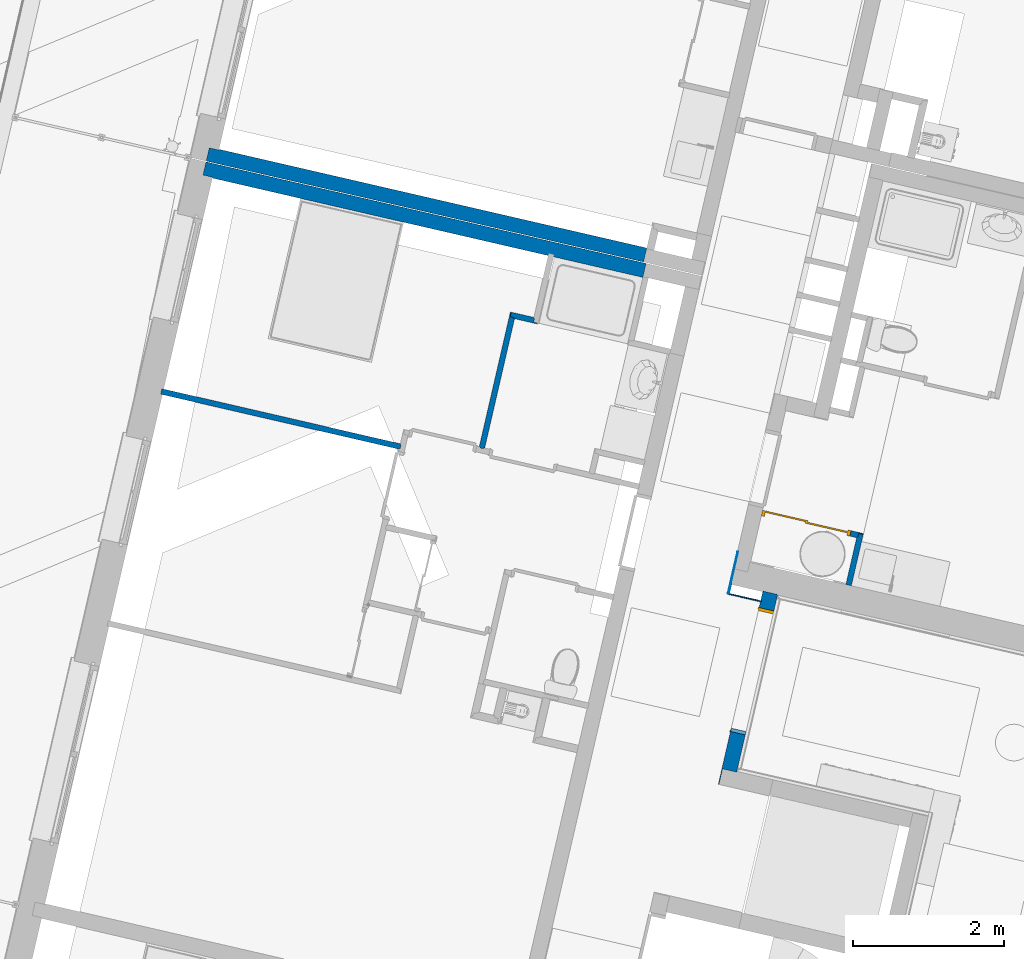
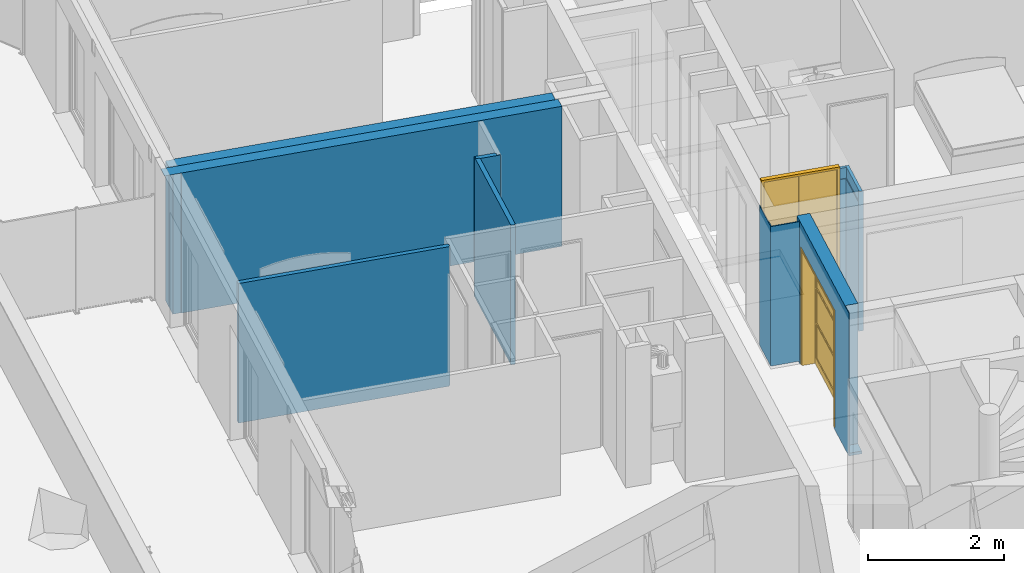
# One storey, part 48 of 119: 10 walls, 2 doors, 2 openings.
"""IFC2X3 building model written with IfcOpenShell, lengths in metres."""

from ifc_helpers import new_model, entity, si_unit, converted_unit, derived_unit, money_unit, direction, frame, origin_with_axes, place, context, subcontext, project, spatial, faceted_brep, material, material_list, type_object, element, fill, save


model = new_model("IFC2X3")

# Units and contexts
model_context = context("Model", 3, precision=1e-05, world=origin_with_axes(), true_north=direction((0.0, 1.0)))
body_context = subcontext(model_context, "Body", "Model", "MODEL_VIEW")
ifc_project = project(units=[si_unit("LENGTHUNIT", "METRE"), si_unit("AREAUNIT", "SQUARE_METRE"), si_unit("VOLUMEUNIT", "CUBIC_METRE"), converted_unit("PLANEANGLEUNIT", "DEGREE", entity("IfcPlaneAngleMeasure", 0.0174532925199), si_unit("PLANEANGLEUNIT", "RADIAN"), dimensions=[0, 0, 0, 0, 0, 0, 0]), si_unit("SOLIDANGLEUNIT", "STERADIAN"), money_unit("EUR"), converted_unit("TIMEUNIT", "Year", entity("IfcTimeMeasure", 31556926.0), si_unit("TIMEUNIT", "SECOND"), dimensions=[0, 0, 1, 0, 0, 0, 0]), si_unit("MASSUNIT", "GRAM", prefix="KILO"), si_unit("THERMODYNAMICTEMPERATUREUNIT", "DEGREE_CELSIUS"), si_unit("LUMINOUSINTENSITYUNIT", "LUMEN"), si_unit("ENERGYUNIT", "JOULE", prefix="MEGA"), derived_unit("THERMALCONDUCTANCEUNIT", [(si_unit("POWERUNIT", "WATT"), 1), (si_unit("LENGTHUNIT", "METRE"), -1), (si_unit("THERMODYNAMICTEMPERATUREUNIT", "KELVIN"), -1)]), derived_unit("SPECIFICHEATCAPACITYUNIT", [(si_unit("ENERGYUNIT", "JOULE"), 1), (si_unit("MASSUNIT", "GRAM", prefix="KILO"), -1), (si_unit("THERMODYNAMICTEMPERATUREUNIT", "KELVIN"), -1)]), derived_unit("MASSDENSITYUNIT", [(si_unit("MASSUNIT", "GRAM", prefix="KILO"), 1), (si_unit("VOLUMEUNIT", "CUBIC_METRE"), -1)])], contexts=[model_context])

# Site, building, storey
site_placement = place(None, origin_with_axes())
site = spatial("IfcSite", under=ifc_project, at=site_placement, Name="Site", CompositionType="ELEMENT")
building_placement = place(site_placement, origin_with_axes())
building = spatial("IfcBuilding", under=site, at=building_placement, Name="Bâtiment", CompositionType="ELEMENT")
storey_placement = place(building_placement, origin_with_axes())
storey = spatial("IfcBuildingStorey", under=building, at=storey_placement, Name="Rez-de-chaussée", CompositionType="ELEMENT", Elevation=0.0)

# Walls
ifc_material_1 = material(Name="Finition int - Plaque de plâtre")
ifc_material_2 = material(Name="Isolation - Laine de roche")
ifc_material_list_1 = material_list([ifc_material_1, ifc_material_2, ifc_material_1])
wall_type_1 = type_object("IfcWallType", Name="3 - Cloison 72mm Placostil 74", PredefinedType="USERDEFINED")
wall_1_placement = place(storey_placement, frame((-13.0436333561, 0.0874017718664, 0.0), z_axis=(0.0, 0.0, 1.0), x_axis=(0.224876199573, 0.974387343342, 0.0)))
element("IfcWall", 1, at=wall_1_placement, inside=storey, type_object=wall_type_1, material=ifc_material_list_1, Name="Cloison Placostil 72/48", ObjectType="PARTITIONING", context=body_context, shape_type="Brep", body=[
    faceted_brep([(1.88946721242, 0.074, 0.0), (1.88946721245, 0.061, 0.0), (0.0740000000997, 0.061, 0.0), (0.0740000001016, 0.074, 0.0), (1.88946721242, 0.074, 2.5), (1.88946721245, 0.061, 2.5), (0.0740000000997, 0.061, 2.5), (0.0740000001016, 0.074, 2.5)], [[[0, 1, 2, 3]], [[1, 0, 4, 5]], [[1, 5, 6, 2]], [[7, 3, 2, 6]], [[4, 0, 3, 7]], [[5, 4, 7, 6]]]),
    faceted_brep([(1.84146721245, 0.061, 0.0), (1.84146721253, 0.013, 0.0), (0.0610000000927, 0.013, 0.0), (0.0610000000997, 0.061, 0.0), (1.84146721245, 0.061, 2.5), (1.84146721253, 0.013, 2.5), (0.0610000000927, 0.013, 2.5), (0.0610000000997, 0.061, 2.5)], [[[0, 1, 2, 3]], [[1, 0, 4, 5]], [[1, 5, 6, 2]], [[7, 3, 2, 6]], [[4, 0, 3, 7]], [[5, 4, 7, 6]]]),
    faceted_brep([(1.82846721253, 0.013, 0.0), (1.82846721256, 0.0, 0.0), (0.0740000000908, 0.0, 0.0), (0.0740000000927, 0.013, 0.0), (1.82846721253, 0.013, 2.5), (1.82846721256, 0.0, 2.5), (0.0740000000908, 0.0, 2.5), (0.0740000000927, 0.013, 2.5)], [[[0, 1, 2, 3]], [[1, 0, 4, 5]], [[1, 5, 6, 2]], [[7, 3, 2, 6]], [[4, 0, 3, 7]], [[5, 4, 7, 6]]]),
])
wall_2_placement = place(storey_placement, frame((-12.3216051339, 1.79729698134, 0.0), z_axis=(0.0, 0.0, 1.0), x_axis=(-0.974387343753, 0.224876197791, 0.0)))
element("IfcWall", 2, at=wall_2_placement, inside=storey, type_object=wall_type_1, material=ifc_material_list_1, Name="Cloison Placostil 72/48", ObjectType="PARTITIONING", context=body_context, shape_type="Brep", body=[
    faceted_brep([(0.332020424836, -0.013, 2.5), (0.332020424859, 0.0, 2.5), (0.013, 0.0, 2.5), (0.012999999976, -0.013, 2.5), (0.332020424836, -0.013, 0.0), (0.332020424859, 0.0, 0.0), (0.013, 0.0, 0.0), (0.012999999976, -0.013, 0.0)], [[[0, 1, 2, 3]], [[1, 0, 4, 5]], [[1, 5, 6, 2]], [[7, 3, 2, 6]], [[4, 0, 3, 7]], [[5, 4, 7, 6]]]),
    faceted_brep([(0.380020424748, -0.061, 2.5), (0.380020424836, -0.013, 2.5), (0.060999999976, -0.013, 2.5), (0.0609999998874, -0.061, 2.5), (0.380020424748, -0.061, 0.0), (0.380020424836, -0.013, 0.0), (0.060999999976, -0.013, 0.0), (0.0609999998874, -0.061, 0.0)], [[[0, 1, 2, 3]], [[1, 0, 4, 5]], [[1, 5, 6, 2]], [[7, 3, 2, 6]], [[4, 0, 3, 7]], [[5, 4, 7, 6]]]),
    faceted_brep([(0.393020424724, -0.074, 2.5), (0.393020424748, -0.061, 2.5), (0.0739999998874, -0.061, 2.5), (0.0739999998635, -0.074, 2.5), (0.393020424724, -0.074, 0.0), (0.393020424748, -0.061, 0.0), (0.0739999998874, -0.061, 0.0), (0.0739999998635, -0.074, 0.0)], [[[0, 1, 2, 3]], [[1, 0, 4, 5]], [[1, 5, 6, 2]], [[7, 3, 2, 6]], [[4, 0, 3, 7]], [[5, 4, 7, 6]]]),
])

# Wall, opening, door
wall_3_placement = place(storey_placement, frame((-9.35525864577, -0.66192296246, 0.0), z_axis=(0.0, 0.0, 1.0), x_axis=(0.974387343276, -0.224876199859, 0.0)))
wall_3 = element("IfcWall", 3, at=wall_3_placement, inside=storey, type_object=wall_type_1, material=ifc_material_list_1, Name="Cloison Placostil 72/48", ObjectType="PARTITIONING", context=body_context, shape_type="Brep", body=[
    faceted_brep([(1.20000000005, 0.0, 0.0), (1.20000000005, 0.0, 2.31), (1.35439273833, 0.0, 2.31), (1.35439273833, 0.0, 0.0), (1.20000000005, -0.013, 2.31), (1.20000000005, -0.013, 0.0), (1.35439273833, -0.013, 2.31), (1.35439273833, -0.013, 0.0)], [[[0, 1, 2, 3]], [[4, 1, 0, 5]], [[1, 4, 6, 2]], [[6, 7, 3, 2]], [[5, 0, 3, 7]], [[4, 5, 7, 6]]]),
    faceted_brep([(1.20000000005, -0.013, 0.0), (1.20000000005, -0.013, 2.5), (1.30639273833, -0.013, 2.5), (1.30639273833, -0.013, 0.0), (1.20000000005, -0.061, 2.5), (1.20000000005, -0.061, 0.0), (1.30639273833, -0.061, 2.5), (1.30639273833, -0.061, 0.0)], [[[0, 1, 2, 3]], [[4, 1, 0, 5]], [[1, 4, 6, 2]], [[6, 7, 3, 2]], [[5, 0, 3, 7]], [[4, 5, 7, 6]]]),
    faceted_brep([(1.20000000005, -0.061, 0.0), (1.20000000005, -0.061, 2.31), (1.29339273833, -0.061, 2.31), (1.29339273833, -0.061, 0.0), (1.20000000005, -0.074, 2.31), (1.20000000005, -0.074, 0.0), (1.29339273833, -0.074, 2.31), (1.29339273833, -0.074, 0.0)], [[[0, 1, 2, 3]], [[4, 1, 0, 5]], [[1, 4, 6, 2]], [[6, 7, 3, 2]], [[5, 0, 3, 7]], [[4, 5, 7, 6]]]),
])
opening_1_placement = place(wall_3_placement, frame((0.600000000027, 0.0, 0.0), z_axis=(0.0, 0.0, 1.0), x_axis=(1.0, 0.0, 0.0)))
opening_1 = element("IfcOpeningElement", 4, at=opening_1_placement, cuts=wall_3, Name="Por-002", context=body_context, shape_type="Brep", body=[
    faceted_brep([(-0.600000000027, 0.074, 0.0), (0.600000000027, 0.074, 0.0), (0.600000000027, -0.074, 0.0), (-0.600000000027, -0.074, 0.0), (-0.600000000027, 0.074, 2.54), (0.600000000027, 0.074, 2.54), (0.600000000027, -0.074, 2.54), (-0.600000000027, -0.074, 2.54)], [[[0, 1, 2, 3]], [[0, 4, 5, 1]], [[1, 5, 6, 2]], [[3, 2, 6, 7]], [[4, 0, 3, 7]], [[5, 4, 7, 6]]]),
])
door_style_1 = type_object("IfcDoorStyle", Name="Porte int générique 2019", ConstructionType="NOTDEFINED", OperationType="USERDEFINED", ParameterTakesPrecedence=False, Sizeable=False)
door_1_placement = place(opening_1_placement, frame((-0.560000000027, 0.0, 0.0), z_axis=(0.0, 0.0, 1.0), x_axis=(1.0, 0.0, 0.0)))
door_1 = element("IfcDoor", 5, at=door_1_placement, inside=storey, type_object=door_style_1, Name="Por-002", ObjectType="DOOR", OverallHeight=2.5, OverallWidth=1.12, context=body_context, shape_type="Brep", body=[
    faceted_brep([(-0.04, 0.0, 0.0), (-0.04, 0.0, 2.54), (1.16000000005, 0.0, 2.54), (1.16000000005, 0.0, 0.0), (1.12000000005, 0.0, 0.0), (1.12000000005, 0.0, 2.5), (0.0, 0.0, 2.5), (0.0, 0.0, 0.0), (-0.04, -0.074, 0.0), (-0.04, -0.074, 2.54), (1.16000000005, -0.074, 2.54), (1.16000000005, -0.074, 0.0), (1.12000000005, -0.074, 0.0), (1.12000000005, -0.074, 2.5), (0.0, -0.074, 2.5), (0.0, -0.074, 0.0)], [[[0, 1, 2, 3, 4, 5, 6, 7]], [[8, 9, 1, 0]], [[9, 10, 2, 1]], [[10, 11, 3, 2]], [[3, 11, 12, 4]], [[5, 4, 12, 13]], [[6, 5, 13, 14]], [[7, 6, 14, 15]], [[0, 7, 15, 8]], [[15, 14, 13, 12, 11, 10, 9, 8]]]),
    faceted_brep([(0.0, 0.0, 0.0), (0.575000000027, 0.0, 0.0), (0.575000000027, -0.02, 0.0), (0.0, -0.02, 0.0), (0.0, 0.0, 2.5), (0.575000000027, 0.0, 2.5), (0.575000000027, -0.02, 2.5), (0.0, -0.02, 2.5)], [[[0, 1, 2, 3]], [[0, 4, 5, 1]], [[1, 5, 6, 2]], [[3, 2, 6, 7]], [[4, 0, 3, 7]], [[5, 4, 7, 6]]]),
    faceted_brep([(0.545000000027, -0.02, 0.0), (1.12000000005, -0.02, 0.0), (1.12000000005, -0.04, 0.0), (0.545000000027, -0.04, 0.0), (0.545000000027, -0.02, 2.5), (1.12000000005, -0.02, 2.5), (1.12000000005, -0.04, 2.5), (0.545000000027, -0.04, 2.5)], [[[0, 1, 2, 3]], [[0, 4, 5, 1]], [[1, 5, 6, 2]], [[3, 2, 6, 7]], [[4, 0, 3, 7]], [[5, 4, 7, 6]]]),
])
fill(opening_1, door_1)

# Walls
wall_4_placement = place(storey_placement, frame((-14.085182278, 0.127992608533, 0.0), z_axis=(0.0, 0.0, 1.0), x_axis=(-0.974387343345, 0.224876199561, 0.0)))
element("IfcWall", 6, at=wall_4_placement, inside=storey, type_object=wall_type_1, material=ifc_material_list_1, Name="Cloison Placostil 72/48", ObjectType="PARTITIONING", context=body_context, shape_type="Brep", body=[
    faceted_brep([(0.0740000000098, -0.013, 2.5), (3.30928995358, -0.013, 2.5), (3.30928995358, 0.0, 2.5), (0.0740000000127, 0.0, 2.5), (0.0740000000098, -0.013, 0.0), (3.30928995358, -0.013, 0.0), (3.30928995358, 0.0, 0.0), (0.0740000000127, 0.0, 0.0)], [[[0, 1, 2, 3]], [[4, 5, 1, 0]], [[2, 1, 5, 6]], [[3, 2, 6, 7]], [[4, 0, 3, 7]], [[7, 6, 5, 4]]]),
    faceted_brep([(0.0609999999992, -0.061, 2.5), (3.30928995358, -0.061, 2.5), (3.30928995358, -0.013, 2.5), (0.0610000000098, -0.013, 2.5), (0.0609999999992, -0.061, 0.0), (3.30928995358, -0.061, 0.0), (3.30928995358, -0.013, 0.0), (0.0610000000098, -0.013, 0.0)], [[[0, 1, 2, 3]], [[4, 5, 1, 0]], [[2, 1, 5, 6]], [[3, 2, 6, 7]], [[4, 0, 3, 7]], [[7, 6, 5, 4]]]),
    faceted_brep([(0.0739999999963, -0.074, 2.5), (3.30928995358, -0.074, 2.5), (3.30928995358, -0.061, 2.5), (0.0739999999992, -0.061, 2.5), (0.0739999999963, -0.074, 0.0), (3.30928995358, -0.074, 0.0), (3.30928995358, -0.061, 0.0), (0.0739999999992, -0.061, 0.0)], [[[0, 1, 2, 3]], [[4, 5, 1, 0]], [[2, 1, 5, 6]], [[3, 2, 6, 7]], [[4, 0, 3, 7]], [[7, 6, 5, 4]]]),
])
wall_5_placement = place(storey_placement, frame((-8.25443035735, -1.64361683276, 0.0), z_axis=(0.0, 0.0, 1.0), x_axis=(0.224876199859, 0.974387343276, 0.0)))
element("IfcWall", 7, at=wall_5_placement, inside=storey, type_object=wall_type_1, material=ifc_material_list_1, Name="Cloison Placostil 72/48", ObjectType="PARTITIONING", context=body_context, shape_type="Brep", body=[
    faceted_brep([(0.647999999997, 0.0, 2.31), (0.647999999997, -0.013, 2.31), (0.647999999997, -0.013, 0.0), (0.647999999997, 0.0, 0.0), (0.0150000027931, -0.013, 2.31), (0.0150000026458, 0.0, 2.31), (0.0150000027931, -0.013, 2.5), (0.0, -0.013, 2.5), (0.0, -0.013, 0.0), (0.0, 0.0, 0.0), (0.0, 0.0, 2.5), (0.0150000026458, 0.0, 2.5)], [[[0, 1, 2, 3]], [[4, 1, 0, 5]], [[4, 6, 7, 8, 2, 1]], [[3, 2, 8, 9]], [[5, 0, 3, 9, 10, 11]], [[11, 6, 4, 5]], [[6, 11, 10, 7]], [[8, 7, 10, 9]]]),
    faceted_brep([(0.695999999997, -0.061, 2.5), (0.695999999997, -0.013, 2.5), (0.0, -0.013, 2.5), (0.0, -0.061, 2.5), (0.695999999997, -0.061, 0.0), (0.695999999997, -0.013, 0.0), (0.0, -0.013, 0.0), (0.0, -0.061, 0.0)], [[[0, 1, 2, 3]], [[1, 0, 4, 5]], [[1, 5, 6, 2]], [[7, 3, 2, 6]], [[4, 0, 3, 7]], [[5, 4, 7, 6]]]),
    faceted_brep([(0.708999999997, -0.061, 2.31), (0.708999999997, -0.074, 2.31), (0.708999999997, -0.074, 0.0), (0.708999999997, -0.061, 0.0), (0.015000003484, -0.074, 2.31), (0.0150000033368, -0.061, 2.31), (0.015000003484, -0.074, 2.5), (0.0, -0.074, 2.5), (0.0, -0.074, 0.0), (0.0, -0.061, 0.0), (0.0, -0.061, 2.5), (0.0150000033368, -0.061, 2.5)], [[[0, 1, 2, 3]], [[4, 1, 0, 5]], [[4, 6, 7, 8, 2, 1]], [[3, 2, 8, 9]], [[5, 0, 3, 9, 10, 11]], [[11, 6, 4, 5]], [[6, 11, 10, 7]], [[8, 7, 10, 9]]]),
])

# Wall, opening, door
ifc_material_3 = material(Name="Finition int - Enduit plâtre")
ifc_material_4 = material(Name="Béton")
ifc_material_list_2 = material_list([ifc_material_3, ifc_material_4, ifc_material_3])
wall_type_2 = type_object("IfcWallType", Name="2 - Murs Béton 18 + Enduit 2 Faces 200", PredefinedType="USERDEFINED")
wall_6_placement = place(storey_placement, frame((-9.35056063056, -1.72931826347, -0.05), z_axis=(0.0, 0.0, 1.0), x_axis=(-0.224876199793, -0.974387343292, 0.0)))
wall_6 = element("IfcWall", 8, at=wall_6_placement, inside=storey, type_object=wall_type_2, material=ifc_material_list_2, Name="M_Ext-008", ObjectType="SOLIDWALL", context=body_context, shape_type="Brep", body=[
    faceted_brep([(1.90489627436, 0.199999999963, 0.05), (1.90489627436, 0.199999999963, 2.13), (0.224896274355, 0.199999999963, 2.13), (0.224896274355, 0.199999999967, 0.07), (0.145589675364, 0.199999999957, 0.07), (0.145589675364, 0.199999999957, 0.0), (0.125078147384, 0.199999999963, 0.0), (0.125078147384, 0.200000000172, 0.05), (0.0100000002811, 0.2, 0.05), (0.0100000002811, 0.2, 2.55999999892), (2.41000000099, 0.2, 2.56), (2.41000000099, 0.2, 0.05), (2.61000000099, 0.2, 0.05), (2.61000000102, 0.2, 0.0), (1.86000000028, 0.200000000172, 0.0), (1.86000000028, 0.200000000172, 0.05), (1.90489627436, 0.19, 0.05), (1.90489627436, 0.19, 2.13), (0.224896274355, 0.19, 2.13), (0.224896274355, 0.19, 0.07), (0.145589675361, 0.19, 0.07), (0.145589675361, 0.19, 0.0), (0.125078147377, 0.19, 0.0), (0.125078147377, 0.19, 0.05), (0.0100000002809, 0.19, 0.05), (0.0100000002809, 0.19, 2.55999999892), (2.41000000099, 0.19, 2.56), (2.41000000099, 0.19, 0.05), (2.61000000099, 0.19, 0.05), (2.61000000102, 0.19, 0.0), (1.86000000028, 0.19, 0.0), (1.86000000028, 0.19, 0.05)], [[[0, 1, 2, 3, 4, 5, 6, 7, 8, 9, 10, 11, 12, 13, 14, 15]], [[1, 0, 16, 17]], [[2, 1, 17, 18]], [[3, 2, 18, 19]], [[3, 19, 20, 4]], [[4, 20, 21, 5]], [[6, 5, 21, 22]], [[6, 22, 23, 7]], [[8, 7, 23, 24]], [[24, 25, 9, 8]], [[25, 26, 10, 9]], [[27, 11, 10, 26]], [[28, 12, 11, 27]], [[13, 12, 28, 29]], [[30, 14, 13, 29]], [[31, 15, 14, 30]], [[0, 15, 31, 16]], [[16, 31, 30, 29, 28, 27, 26, 25, 24, 23, 22, 21, 20, 19, 18, 17]]]),
    faceted_brep([(1.90489627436, 0.19, 0.05), (1.90489627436, 0.19, 2.13), (0.224896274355, 0.19, 2.13), (0.224896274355, 0.19, 0.055), (0.145589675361, 0.19, 0.055), (0.145589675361, 0.19, 0.0), (0.125078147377, 0.19, 0.0), (0.125078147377, 0.19, 0.05), (2.80906409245e-10, 0.19, 0.05), (2.80906409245e-10, 0.19, 2.55999999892), (2.41000000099, 0.19, 2.56), (2.41000000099, 0.19, 0.05), (2.61000000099, 0.19, 0.05), (2.61000000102, 0.19, 0.0), (1.86000000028, 0.19, 0.0), (1.86000000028, 0.19, 0.05), (1.90489627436, 0.01, 0.05), (1.90489627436, 0.01, 2.13), (0.224896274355, 0.01, 2.13), (0.224896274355, 0.01, 0.055), (0.145589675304, 0.01, 0.055), (0.145589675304, 0.01, 0.0), (0.0, 0.01, 0.0), (0.0, 0.0760019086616, 0.0), (0.125078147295, 0.0760019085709, 0.0), (0.125078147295, 0.0760019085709, 0.05), (2.79137157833e-10, 0.0760019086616, 0.05), (2.78113976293e-10, 0.01, 0.05), (2.78113976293e-10, 0.01, 2.55999999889), (2.41000000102, 0.01, 2.56), (2.41000000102, 0.01, 0.05), (2.61000000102, 0.01, 0.05), (2.61000000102, 0.01, 0.0), (1.86000000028, 0.01, 0.0), (1.86000000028, 0.01, 0.05)], [[[0, 1, 2, 3, 4, 5, 6, 7, 8, 9, 10, 11, 12, 13, 14, 15]], [[1, 0, 16, 17]], [[2, 1, 17, 18]], [[3, 2, 18, 19]], [[3, 19, 20, 4]], [[4, 20, 21, 5]], [[21, 22, 23, 24, 6, 5]], [[6, 24, 25, 7]], [[8, 7, 25, 26]], [[27, 28, 9, 8, 26]], [[28, 29, 10, 9]], [[30, 11, 10, 29]], [[31, 12, 11, 30]], [[13, 12, 31, 32]], [[33, 14, 13, 32]], [[34, 15, 14, 33]], [[0, 15, 34, 16]], [[16, 34, 33, 32, 31, 30, 29, 28, 27, 22, 21, 20, 19, 18, 17]], [[23, 22, 27, 26]], [[26, 25, 24, 23]]]),
    faceted_brep([(1.90489627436, 0.01, 0.05), (1.90489627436, 0.01, 2.13), (0.224896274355, 0.01, 2.13), (0.224896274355, 0.01, 0.07), (0.145589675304, 0.01, 0.07), (0.145589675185, 0.01, 2.55), (0.130589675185, 0.01, 2.55), (0.130589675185, 0.01, 0.05), (0.145589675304, 0.01, 0.05), (0.145589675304, 0.01, 0.0), (0.0, 0.01, 0.0), (2.78113976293e-10, 0.01, 0.05), (0.0100000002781, 0.01, 0.05), (0.0100000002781, 0.01, 2.55999999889), (2.61999999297, 0.01, 2.56), (2.61999999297, 0.01, 2.45), (2.61000000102, 0.01, 2.45), (2.61000000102, 0.01, 2.337), (2.61999999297, 0.01, 2.337), (2.61999999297, 0.01, 0.07), (2.61000000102, 0.01, 0.07), (2.61000000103, 0.01, 0.05), (2.61000000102, 0.01, 0.0), (1.86000000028, 0.01, 0.0), (1.86000000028, 0.01, 0.05), (1.90489627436, 0.0, 0.05), (1.90489627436, 0.0, 2.13), (0.224896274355, 0.0, 2.13), (0.224896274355, 0.0, 0.07), (0.1455896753, 0.0, 0.07), (0.145589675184, 0.0, 2.55), (0.130589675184, 0.0, 2.55), (0.130589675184, 0.0, 0.05), (0.1455896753, 0.0, 0.05), (0.1455896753, 0.0, 0.0), (0.0, 0.0, 0.0), (2.7795854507e-10, 0.0, 0.05), (0.010000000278, 0.0, 0.05), (0.010000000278, 0.0, 2.55999999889), (2.61999999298, 0.0, 2.56), (2.61999999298, 0.0, 2.45), (2.61000000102, 0.0, 2.45), (2.61000000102, 0.0, 2.337), (2.61999999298, 0.0, 2.337), (2.61999999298, 0.0, 0.07), (2.61000000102, 0.0, 0.07), (2.61000000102, 0.0, 0.05), (2.61000000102, 0.0, 0.0), (1.86000000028, 0.0, 0.0), (1.86000000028, 0.0, 0.05)], [[[0, 1, 2, 3, 4, 5, 6, 7, 8, 9, 10, 11, 12, 13, 14, 15, 16, 17, 18, 19, 20, 21, 22, 23, 24]], [[1, 0, 25, 26]], [[2, 1, 26, 27]], [[3, 2, 27, 28]], [[3, 28, 29, 4]], [[29, 30, 5, 4]], [[6, 5, 30, 31]], [[7, 6, 31, 32]], [[8, 7, 32, 33]], [[33, 34, 9, 8]], [[34, 35, 10, 9]], [[36, 11, 10, 35]], [[12, 11, 36, 37]], [[38, 13, 12, 37]], [[13, 38, 39, 14]], [[15, 14, 39, 40]], [[15, 40, 41, 16]], [[41, 42, 17, 16]], [[17, 42, 43, 18]], [[19, 18, 43, 44]], [[19, 44, 45, 20]], [[45, 46, 21, 20]], [[46, 47, 22, 21]], [[23, 22, 47, 48]], [[49, 24, 23, 48]], [[0, 24, 49, 25]], [[25, 49, 48, 47, 46, 45, 44, 43, 42, 41, 40, 39, 38, 37, 36, 35, 34, 33, 32, 31, 30, 29, 28, 27, 26]]]),
])
opening_2_placement = place(wall_6_placement, frame((1.06489627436, 0.0, 0.05), z_axis=(0.0, 0.0, 1.0), x_axis=(1.0, 0.0, 0.0)))
opening_2 = element("IfcOpeningElement", 9, at=opening_2_placement, cuts=wall_6, Name="Porte métal 2V 160x204", context=body_context, shape_type="Brep", body=[
    faceted_brep([(-0.84, 0.2, 0.0), (0.84, 0.2, 0.0), (0.84, -0.2, 0.0), (-0.84, -0.2, 0.0), (-0.84, 0.2, 2.08), (0.84, 0.2, 2.08), (0.84, -0.2, 2.08), (-0.84, -0.2, 2.08)], [[[0, 1, 2, 3]], [[0, 4, 5, 1]], [[1, 5, 6, 2]], [[3, 2, 6, 7]], [[4, 0, 3, 7]], [[5, 4, 7, 6]]]),
])
door_style_2 = type_object("IfcDoorStyle", Name="Porte int générique 2019", ConstructionType="NOTDEFINED", OperationType="DOUBLE_DOOR_SINGLE_SWING", ParameterTakesPrecedence=False, Sizeable=False)
door_2_placement = place(opening_2_placement, frame((-0.8, 0.0, 0.0), z_axis=(0.0, 0.0, 1.0), x_axis=(1.0, 0.0, 0.0)))
door_2 = element("IfcDoor", 10, at=door_2_placement, inside=storey, type_object=door_style_2, Name="Porte métal 2V 160x204", ObjectType="DOOR", OverallHeight=2.04, OverallWidth=1.6, context=body_context, shape_type="Brep", body=[
    faceted_brep([(-0.04, 0.2, 0.0), (-0.04, 0.2, 2.08), (1.64, 0.2, 2.08), (1.64, 0.2, 0.0), (1.6, 0.2, 0.0), (1.6, 0.2, 2.04), (0.0, 0.2, 2.04), (0.0, 0.2, 0.0), (-0.04, 0.0, 0.0), (-0.04, 0.0, 2.08), (1.64, 0.0, 2.08), (1.64, 0.0, 0.0), (1.6, 0.0, 0.0), (1.6, 0.0, 2.04), (0.0, 0.0, 2.04), (0.0, 0.0, 0.0)], [[[0, 1, 2, 3, 4, 5, 6, 7]], [[8, 9, 1, 0]], [[9, 10, 2, 1]], [[10, 11, 3, 2]], [[3, 11, 12, 4]], [[5, 4, 12, 13]], [[6, 5, 13, 14]], [[7, 6, 14, 15]], [[0, 7, 15, 8]], [[15, 14, 13, 12, 11, 10, 9, 8]]]),
    faceted_brep([(-0.05, 0.2, 0.0), (-0.05, 0.2, 2.09), (-0.05, 0.21, 2.09), (-0.05, 0.21, 0.0), (-0.02, 0.2, 0.0), (-0.02, 0.2, 2.06), (1.62, 0.2, 2.06), (1.62, 0.2, 0.0), (1.65, 0.2, 0.0), (1.65, 0.2, 2.09), (1.65, 0.21, 2.09), (1.65, 0.21, 0.0), (1.62, 0.21, 0.0), (1.62, 0.21, 2.06), (-0.02, 0.21, 2.06), (-0.02, 0.21, 0.0)], [[[0, 1, 2, 3]], [[4, 5, 6, 7, 8, 9, 1, 0]], [[1, 9, 10, 2]], [[3, 2, 10, 11, 12, 13, 14, 15]], [[0, 3, 15, 4]], [[15, 14, 5, 4]], [[14, 13, 6, 5]], [[13, 12, 7, 6]], [[8, 7, 12, 11]], [[9, 8, 11, 10]]]),
    faceted_brep([(-0.05, -0.01, 0.0), (-0.05, -0.01, 2.09), (-0.05, 0.0, 2.09), (-0.05, 0.0, 0.0), (-0.02, -0.01, 0.0), (-0.02, -0.01, 2.06), (1.62, -0.01, 2.06), (1.62, -0.01, 0.0), (1.65, -0.01, 0.0), (1.65, -0.01, 2.09), (1.65, 0.0, 2.09), (1.65, 0.0, 0.0), (1.62, 0.0, 0.0), (1.62, 0.0, 2.06), (-0.02, 0.0, 2.06), (-0.02, 0.0, 0.0)], [[[0, 1, 2, 3]], [[4, 5, 6, 7, 8, 9, 1, 0]], [[1, 9, 10, 2]], [[3, 2, 10, 11, 12, 13, 14, 15]], [[0, 3, 15, 4]], [[15, 14, 5, 4]], [[14, 13, 6, 5]], [[13, 12, 7, 6]], [[8, 7, 12, 11]], [[9, 8, 11, 10]]]),
    faceted_brep([(1.6175, 0.24, 0.0), (1.6175, 0.2, 0.0), (1.0025, 0.2, 0.0), (1.0025, 0.24, 0.0), (1.6175, 0.24, 2.06), (1.6175, 0.2, 2.06), (1.0025, 0.2, 2.06), (1.5575, 0.2, 0.12), (1.0625, 0.2, 0.12), (1.0625, 0.2, 0.733333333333), (1.5575, 0.2, 0.733333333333), (1.5575, 0.2, 0.753333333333), (1.0625, 0.2, 0.753333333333), (1.0625, 0.2, 1.36666666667), (1.5575, 0.2, 1.36666666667), (1.5575, 0.2, 1.38666666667), (1.0625, 0.2, 1.38666666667), (1.0625, 0.2, 2.0), (1.5575, 0.2, 2.0), (1.0025, 0.24, 2.06), (1.5575, 0.24, 0.12), (1.5575, 0.24, 0.733333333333), (1.0625, 0.24, 0.733333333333), (1.0625, 0.24, 0.12), (1.5575, 0.24, 0.753333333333), (1.5575, 0.24, 1.36666666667), (1.0625, 0.24, 1.36666666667), (1.0625, 0.24, 0.753333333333), (1.5575, 0.24, 1.38666666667), (1.5575, 0.24, 2.0), (1.0625, 0.24, 2.0), (1.0625, 0.24, 1.38666666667)], [[[0, 1, 2, 3]], [[4, 5, 1, 0]], [[1, 5, 6, 2], [7, 8, 9, 10], [11, 12, 13, 14], [15, 16, 17, 18]], [[3, 2, 6, 19]], [[0, 3, 19, 4], [20, 21, 22, 23], [24, 25, 26, 27], [28, 29, 30, 31]], [[19, 6, 5, 4]], [[23, 8, 7, 20]], [[22, 9, 8, 23]], [[21, 10, 9, 22]], [[20, 7, 10, 21]], [[27, 12, 11, 24]], [[26, 13, 12, 27]], [[25, 14, 13, 26]], [[24, 11, 14, 25]], [[31, 16, 15, 28]], [[30, 17, 16, 31]], [[29, 18, 17, 30]], [[28, 15, 18, 29]]]),
    faceted_brep([(1.5575, 0.225, 0.12), (1.5575, 0.215, 0.12), (1.0625, 0.215, 0.12), (1.0625, 0.225, 0.12), (1.5575, 0.225, 0.733333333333), (1.5575, 0.215, 0.733333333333), (1.0625, 0.215, 0.733333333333), (1.0625, 0.225, 0.733333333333)], [[[0, 1, 2, 3]], [[4, 5, 1, 0]], [[1, 5, 6, 2]], [[3, 2, 6, 7]], [[0, 3, 7, 4]], [[7, 6, 5, 4]]]),
    faceted_brep([(1.5575, 0.225, 0.753333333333), (1.5575, 0.215, 0.753333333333), (1.0625, 0.215, 0.753333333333), (1.0625, 0.225, 0.753333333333), (1.5575, 0.225, 1.36666666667), (1.5575, 0.215, 1.36666666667), (1.0625, 0.215, 1.36666666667), (1.0625, 0.225, 1.36666666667)], [[[0, 1, 2, 3]], [[4, 5, 1, 0]], [[1, 5, 6, 2]], [[3, 2, 6, 7]], [[0, 3, 7, 4]], [[7, 6, 5, 4]]]),
    faceted_brep([(1.5575, 0.225, 1.38666666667), (1.5575, 0.215, 1.38666666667), (1.0625, 0.215, 1.38666666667), (1.0625, 0.225, 1.38666666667), (1.5575, 0.225, 2.0), (1.5575, 0.215, 2.0), (1.0625, 0.215, 2.0), (1.0625, 0.225, 2.0)], [[[0, 1, 2, 3]], [[4, 5, 1, 0]], [[1, 5, 6, 2]], [[3, 2, 6, 7]], [[0, 3, 7, 4]], [[7, 6, 5, 4]]]),
    faceted_brep([(-0.02, 0.24, 0.0), (1.0, 0.24, 0.0), (1.0, 0.2, 0.0), (-0.02, 0.2, 0.0), (-0.02, 0.24, 2.06), (1.0, 0.24, 2.06), (0.04, 0.24, 0.12), (0.94, 0.24, 0.12), (0.94, 0.24, 0.733333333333), (0.04, 0.24, 0.733333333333), (0.04, 0.24, 0.753333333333), (0.94, 0.24, 0.753333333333), (0.94, 0.24, 1.36666666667), (0.04, 0.24, 1.36666666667), (0.04, 0.24, 1.38666666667), (0.94, 0.24, 1.38666666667), (0.94, 0.24, 2.0), (0.04, 0.24, 2.0), (1.0, 0.2, 2.06), (-0.02, 0.2, 2.06), (0.04, 0.2, 0.12), (0.04, 0.2, 0.733333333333), (0.94, 0.2, 0.733333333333), (0.94, 0.2, 0.12), (0.04, 0.2, 0.753333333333), (0.04, 0.2, 1.36666666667), (0.94, 0.2, 1.36666666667), (0.94, 0.2, 0.753333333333), (0.04, 0.2, 1.38666666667), (0.04, 0.2, 2.0), (0.94, 0.2, 2.0), (0.94, 0.2, 1.38666666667)], [[[0, 1, 2, 3]], [[0, 4, 5, 1], [6, 7, 8, 9], [10, 11, 12, 13], [14, 15, 16, 17]], [[1, 5, 18, 2]], [[3, 2, 18, 19], [20, 21, 22, 23], [24, 25, 26, 27], [28, 29, 30, 31]], [[4, 0, 3, 19]], [[5, 4, 19, 18]], [[7, 6, 20, 23]], [[8, 7, 23, 22]], [[9, 8, 22, 21]], [[6, 9, 21, 20]], [[11, 10, 24, 27]], [[12, 11, 27, 26]], [[13, 12, 26, 25]], [[10, 13, 25, 24]], [[15, 14, 28, 31]], [[16, 15, 31, 30]], [[17, 16, 30, 29]], [[14, 17, 29, 28]]]),
    faceted_brep([(0.04, 0.225, 0.12), (0.94, 0.225, 0.12), (0.94, 0.215, 0.12), (0.04, 0.215, 0.12), (0.04, 0.225, 0.733333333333), (0.94, 0.225, 0.733333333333), (0.94, 0.215, 0.733333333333), (0.04, 0.215, 0.733333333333)], [[[0, 1, 2, 3]], [[0, 4, 5, 1]], [[1, 5, 6, 2]], [[3, 2, 6, 7]], [[4, 0, 3, 7]], [[5, 4, 7, 6]]]),
    faceted_brep([(0.04, 0.225, 0.753333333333), (0.94, 0.225, 0.753333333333), (0.94, 0.215, 0.753333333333), (0.04, 0.215, 0.753333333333), (0.04, 0.225, 1.36666666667), (0.94, 0.225, 1.36666666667), (0.94, 0.215, 1.36666666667), (0.04, 0.215, 1.36666666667)], [[[0, 1, 2, 3]], [[0, 4, 5, 1]], [[1, 5, 6, 2]], [[3, 2, 6, 7]], [[4, 0, 3, 7]], [[5, 4, 7, 6]]]),
    faceted_brep([(0.04, 0.225, 1.38666666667), (0.94, 0.225, 1.38666666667), (0.94, 0.215, 1.38666666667), (0.04, 0.215, 1.38666666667), (0.04, 0.225, 2.0), (0.94, 0.225, 2.0), (0.94, 0.215, 2.0), (0.04, 0.215, 2.0)], [[[0, 1, 2, 3]], [[0, 4, 5, 1]], [[1, 5, 6, 2]], [[3, 2, 6, 7]], [[4, 0, 3, 7]], [[5, 4, 7, 6]]]),
    faceted_brep([(0.985, 0.245, 0.0), (0.985, 0.245, 2.06), (1.015, 0.245, 2.06), (1.015, 0.245, 0.0), (0.985, 0.24, 0.0), (0.985, 0.24, 2.06), (1.015, 0.24, 2.06), (1.015, 0.24, 0.0)], [[[0, 1, 2, 3]], [[0, 4, 5, 1]], [[1, 5, 6, 2]], [[2, 6, 7, 3]], [[3, 7, 4, 0]], [[7, 6, 5, 4]]]),
])
fill(opening_2, door_2)

# Walls
ifc_material_list_3 = material_list([ifc_material_3, ifc_material_4])
wall_type_3 = type_object("IfcWallType", Name="2 - Murs Béton 18 + Enduit 1 Face 190", PredefinedType="USERDEFINED")
wall_7_placement = place(storey_placement, frame((-10.8945580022, 2.59994601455, 0.0), z_axis=(0.0, 0.0, 1.0), x_axis=(-0.974387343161, 0.224876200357, 0.0)))
element("IfcWall", 11, at=wall_7_placement, inside=storey, type_object=wall_type_3, material=ifc_material_list_3, Name="M_Ext-009", ObjectType="SOLIDWALL", context=body_context, shape_type="Brep", body=[
    faceted_brep([(6.09931037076, 0.18, 2.51), (0.0, 0.18, 2.51), (0.0, 0.18, 0.0), (5.83731037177, 0.18, 0.0), (5.83731037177, 0.18, 0.133633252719), (5.83731037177, 0.18, 0.160000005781), (5.83731037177, 0.18, 0.169414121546), (5.83731037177, 0.18, 0.176532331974), (5.83731037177, 0.18, 0.207793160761), (5.83731037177, 0.18, 2.50955001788), (5.84731034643, 0.18, 2.50955001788), (5.96731037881, 0.18, 2.50955001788), (6.09931035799, 0.18, 2.50955), (0.0, 0.19, 2.51), (6.09931037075, 0.19, 2.51), (0.0, 0.19, 0.0), (5.83731037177, 0.19, 0.0), (5.83731037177, 0.19, 0.133633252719), (5.83731037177, 0.19, 0.160000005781), (5.83731037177, 0.19, 0.169414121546), (5.83731037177, 0.19, 0.176532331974), (5.83731037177, 0.19, 0.207793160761), (5.83731037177, 0.19, 2.50955001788), (5.84731034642, 0.19, 2.50955001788), (5.9673103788, 0.19, 2.50955001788), (6.09931035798, 0.19, 2.50955)], [[[0, 1, 2, 3, 4, 5, 6, 7, 8, 9, 10, 11, 12]], [[13, 1, 0, 14]], [[1, 13, 15, 2]], [[3, 2, 15, 16]], [[16, 17, 4, 3]], [[18, 5, 4, 17]], [[19, 6, 5, 18]], [[7, 6, 19, 20]], [[8, 7, 20, 21]], [[8, 21, 22, 9]], [[9, 22, 23, 10]], [[23, 24, 11, 10]], [[24, 25, 12, 11]], [[14, 0, 12, 25]], [[13, 14, 25, 24, 23, 22, 21, 20, 19, 18, 17, 16, 15]]]),
    faceted_brep([(6.09931037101, 0.0, 2.51), (0.0, 0.0, 2.51), (0.0, 0.0, 0.0), (5.96731036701, 0.0, 0.0), (5.96731036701, 0.0, 0.133633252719), (5.96731036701, 0.0, 0.160000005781), (5.96731036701, 0.0, 0.169414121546), (5.96731036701, 0.0, 0.176532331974), (5.96731036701, 0.0, 0.207793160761), (5.96731036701, 0.0, 2.50955001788), (6.09931035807, 0.0, 2.50955), (0.0, 0.18, 2.51), (6.09931037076, 0.18, 2.51), (0.0, 0.18, 0.0), (5.96731036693, 0.18, 0.0), (5.96731036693, 0.18, 0.133633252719), (5.96731036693, 0.18, 0.160000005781), (5.96731036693, 0.18, 0.169414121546), (5.96731036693, 0.18, 0.176532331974), (5.96731036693, 0.18, 0.207793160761), (5.96731036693, 0.18, 2.50955001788), (6.09931035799, 0.18, 2.50955)], [[[0, 1, 2, 3, 4, 5, 6, 7, 8, 9, 10]], [[11, 1, 0, 12]], [[1, 11, 13, 2]], [[13, 14, 3, 2]], [[14, 15, 4, 3]], [[4, 15, 16, 5]], [[17, 6, 5, 16]], [[17, 18, 7, 6]], [[8, 7, 18, 19]], [[8, 19, 20, 9]], [[20, 21, 10, 9]], [[12, 0, 10, 21]], [[11, 12, 21, 20, 19, 18, 17, 16, 15, 14, 13]]]),
])
ifc_material_list_4 = material_list([ifc_material_4, ifc_material_3])
wall_8_placement = place(storey_placement, frame((-10.9283615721, 2.61801031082, 0.0), z_axis=(0.0, 0.0, 1.0), x_axis=(-0.974387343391, 0.22487619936, 0.0)))
element("IfcWall", 12, at=wall_8_placement, inside=storey, type_object=wall_type_3, material=ifc_material_list_4, Name="M_Ext-009", ObjectType="SOLIDWALL", context=body_context, shape_type="Brep", body=[
    faceted_brep([(5.93031038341, -0.18, 0.176532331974), (5.93031038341, -0.18, 0.207793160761), (5.93031038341, -0.18, 2.5), (0.0, -0.18, 2.5), (0.0, -0.18, 0.0), (5.93031038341, -0.18, 0.0), (5.93031038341, -0.18, 0.133633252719), (5.93031038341, -0.18, 0.160000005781), (5.93031038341, -0.18, 0.169414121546), (5.93031038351, 0.0, 0.176532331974), (5.93031038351, 0.0, 0.207793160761), (5.93031038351, 0.0, 2.5), (0.0, 0.0, 2.5), (0.0, 0.0, 0.0), (5.93031038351, 0.0, 0.0), (5.93031038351, 0.0, 0.133633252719), (5.93031038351, 0.0, 0.160000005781), (5.93031038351, 0.0, 0.169414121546)], [[[0, 1, 2, 3, 4, 5, 6, 7, 8]], [[9, 10, 1, 0]], [[10, 11, 2, 1]], [[3, 2, 11, 12]], [[3, 12, 13, 4]], [[5, 4, 13, 14]], [[6, 5, 14, 15]], [[16, 7, 6, 15]], [[7, 16, 17, 8]], [[0, 8, 17, 9]], [[12, 11, 10, 9, 17, 16, 15, 14, 13]]]),
    faceted_brep([(5.80031038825, -0.19, 0.176532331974), (5.80031038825, -0.19, 0.207793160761), (5.80031038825, -0.19, 2.5), (0.0, -0.19, 2.5), (0.0, -0.19, 0.0), (5.80031038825, -0.19, 0.0), (5.80031038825, -0.19, 0.133633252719), (5.80031038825, -0.19, 0.160000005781), (5.80031038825, -0.19, 0.169414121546), (5.80031038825, -0.18, 0.176532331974), (5.80031038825, -0.18, 0.207793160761), (5.80031038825, -0.18, 2.5), (0.0, -0.18, 2.5), (0.0, -0.18, 0.0), (5.80031038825, -0.18, 0.0), (5.80031038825, -0.18, 0.133633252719), (5.80031038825, -0.18, 0.160000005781), (5.80031038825, -0.18, 0.169414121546)], [[[0, 1, 2, 3, 4, 5, 6, 7, 8]], [[9, 10, 1, 0]], [[10, 11, 2, 1]], [[3, 2, 11, 12]], [[3, 12, 13, 4]], [[13, 14, 5, 4]], [[6, 5, 14, 15]], [[6, 15, 16, 7]], [[7, 16, 17, 8]], [[17, 9, 0, 8]], [[12, 11, 10, 9, 17, 16, 15, 14, 13]]]),
])
wall_type_4 = type_object("IfcWallType", Name="Finition int - Plaque de plâtre 15", PredefinedType="USERDEFINED")
wall_9_placement = place(storey_placement, frame((-9.81652213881, -1.77119690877, 0.0), z_axis=(0.0, 0.0, 1.0), x_axis=(0.224876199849, 0.974387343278, 0.0)))
element("IfcWall", 13, at=wall_9_placement, inside=storey, type_object=wall_type_4, material=ifc_material_1, Name="M_Ext-011", ObjectType="PARTITIONING", context=body_context, shape_type="Brep", body=[
    faceted_brep([(0.015, 0.0, 2.5), (0.015, -0.015, 2.5), (0.145589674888, -0.015, 2.5), (0.145589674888, -0.01, 2.5), (0.345589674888, -0.01, 2.5), (0.575589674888, -0.00999999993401, 2.5), (0.575589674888, 0.0, 2.5), (0.015, 0.0, 0.0), (0.015, -0.015, 0.0), (0.145589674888, -0.015, 0.0), (0.145589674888, -0.01, 0.0), (0.575589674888, -0.00999999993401, 0.0), (0.345589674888, -0.01, 0.0), (0.575589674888, 0.0, 0.0)], [[[0, 1, 2, 3, 4, 5, 6]], [[7, 8, 1, 0]], [[1, 8, 9, 2]], [[9, 10, 3, 2]], [[11, 5, 4, 3, 10, 12]], [[13, 6, 5, 11]], [[6, 13, 7, 0]], [[11, 12, 10, 9, 8, 7, 13]]]),
])
wall_10_placement = place(storey_placement, frame((-9.38330028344, -1.87117900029, 0.0), z_axis=(0.0, 0.0, 1.0), x_axis=(-0.974387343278, 0.224876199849, 0.0)))
element("IfcWall", 14, at=wall_10_placement, inside=storey, type_object=wall_type_4, material=ifc_material_1, Name="M_Ext-010", ObjectType="PARTITIONING", context=body_context, shape_type="Brep", body=[
    faceted_brep([(0.444609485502, -0.015, 2.5), (0.444609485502, 0.0, 2.5), (-0.01, 0.0, 2.5), (-0.00999999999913, -0.015, 2.5), (0.444609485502, -0.015, 0.0), (0.444609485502, 0.0, 0.0), (-0.01, 0.0, 0.0), (-0.00999999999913, -0.015, 0.0)], [[[0, 1, 2, 3]], [[1, 0, 4, 5]], [[1, 5, 6, 2]], [[7, 3, 2, 6]], [[4, 0, 3, 7]], [[5, 4, 7, 6]]]),
])

save(model, "model.ifc")
